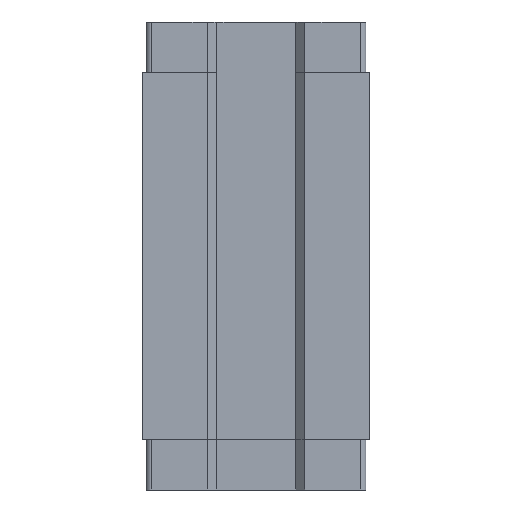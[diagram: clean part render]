
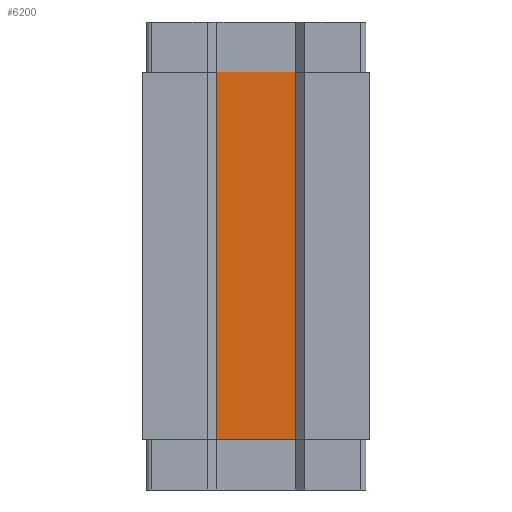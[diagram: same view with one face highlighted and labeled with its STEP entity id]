
A CAD part, front view. The second image highlights one B-rep face of the part: STEP entity #6200.
In plain terms, the highlighted planar face has unit normal (0, -1, 0).
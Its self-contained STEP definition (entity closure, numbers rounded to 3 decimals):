
#50 = VERTEX_POINT ( 'NONE', #6152 ) ;
#133 = DIRECTION ( 'NONE',  ( 1., 0., 0. ) ) ;
#280 = EDGE_CURVE ( 'NONE', #10054, #6195, #4430, .T. ) ;
#743 = EDGE_CURVE ( 'NONE', #2628, #3906, #4922, .T. ) ;
#1350 = DIRECTION ( 'NONE',  ( 1., 0., 0. ) ) ;
#1365 = CARTESIAN_POINT ( 'NONE',  ( -25.291, -0.002, -101.8 ) ) ;
#1453 = CARTESIAN_POINT ( 'NONE',  ( -25.291, -0.002, 101.8 ) ) ;
#1458 = LINE ( 'NONE', #1365, #1558 ) ;
#1558 = VECTOR ( 'NONE', #1350, 1000. ) ;
#2111 = AXIS2_PLACEMENT_3D ( 'NONE', #8358, #8428, #8485 ) ;
#2278 = CARTESIAN_POINT ( 'NONE',  ( 25.291, -0.002, -101.8 ) ) ;
#2375 = ORIENTED_EDGE ( 'NONE', *, *, #4411, .T. ) ;
#2523 = ORIENTED_EDGE ( 'NONE', *, *, #280, .T. ) ;
#2628 = VERTEX_POINT ( 'NONE', #8792 ) ;
#2751 = ORIENTED_EDGE ( 'NONE', *, *, #7360, .T. ) ;
#2922 = ORIENTED_EDGE ( 'NONE', *, *, #743, .F. ) ;
#3906 = VERTEX_POINT ( 'NONE', #8376 ) ;
#3988 = VERTEX_POINT ( 'NONE', #8065 ) ;
#4411 = EDGE_CURVE ( 'NONE', #6195, #50, #1458, .T. ) ;
#4430 = LINE ( 'NONE', #5257, #5829 ) ;
#4922 = LINE ( 'NONE', #9515, #5966 ) ;
#5208 = DIRECTION ( 'NONE',  ( 0., 0., -1. ) ) ;
#5257 = CARTESIAN_POINT ( 'NONE',  ( -25.291, -0.002, -101.8 ) ) ;
#5709 = CARTESIAN_POINT ( 'NONE',  ( -23.338, -0.002, -101.8 ) ) ;
#5829 = VECTOR ( 'NONE', #10328, 1000. ) ;
#5966 = VECTOR ( 'NONE', #133, 1000. ) ;
#6152 = CARTESIAN_POINT ( 'NONE',  ( 25.291, -0.002, -101.8 ) ) ;
#6195 = VERTEX_POINT ( 'NONE', #6964 ) ;
#6200 = ADVANCED_FACE ( 'NONE', ( #7604 ), #8276, .T. ) ;
#6506 = EDGE_CURVE ( 'NONE', #50, #3988, #8610, .T. ) ;
#6544 = LINE ( 'NONE', #1453, #6599 ) ;
#6599 = VECTOR ( 'NONE', #8811, 1000. ) ;
#6964 = CARTESIAN_POINT ( 'NONE',  ( 25.291, -0.002, -101.8 ) ) ;
#7360 = EDGE_CURVE ( 'NONE', #2628, #10054, #8234, .T. ) ;
#7604 = FACE_OUTER_BOUND ( 'NONE', #8677, .T. ) ;
#8065 = CARTESIAN_POINT ( 'NONE',  ( 25.291, -0.002, 101.8 ) ) ;
#8158 = EDGE_CURVE ( 'NONE', #3906, #3988, #6544, .T. ) ;
#8234 = LINE ( 'NONE', #9842, #9171 ) ;
#8276 = PLANE ( 'NONE',  #2111 ) ;
#8358 = CARTESIAN_POINT ( 'NONE',  ( -25.291, -0.002, -101.8 ) ) ;
#8376 = CARTESIAN_POINT ( 'NONE',  ( 25.291, -0.002, 101.8 ) ) ;
#8428 = DIRECTION ( 'NONE',  ( 0., -1., 0. ) ) ;
#8485 = DIRECTION ( 'NONE',  ( 0., 0., -1. ) ) ;
#8544 = VECTOR ( 'NONE', #10174, 1000. ) ;
#8610 = LINE ( 'NONE', #2278, #8544 ) ;
#8677 = EDGE_LOOP ( 'NONE', ( #2922, #2751, #2523, #2375, #9216, #9647 ) ) ;
#8792 = CARTESIAN_POINT ( 'NONE',  ( -23.338, -0.002, 101.8 ) ) ;
#8811 = DIRECTION ( 'NONE',  ( 1., 0., 0. ) ) ;
#9171 = VECTOR ( 'NONE', #5208, 1000. ) ;
#9216 = ORIENTED_EDGE ( 'NONE', *, *, #6506, .T. ) ;
#9515 = CARTESIAN_POINT ( 'NONE',  ( -25.291, -0.002, 101.8 ) ) ;
#9647 = ORIENTED_EDGE ( 'NONE', *, *, #8158, .F. ) ;
#9842 = CARTESIAN_POINT ( 'NONE',  ( -23.338, -0.002, -101.8 ) ) ;
#10054 = VERTEX_POINT ( 'NONE', #5709 ) ;
#10174 = DIRECTION ( 'NONE',  ( 0., 0., 1. ) ) ;
#10328 = DIRECTION ( 'NONE',  ( 1., 0., 0. ) ) ;
